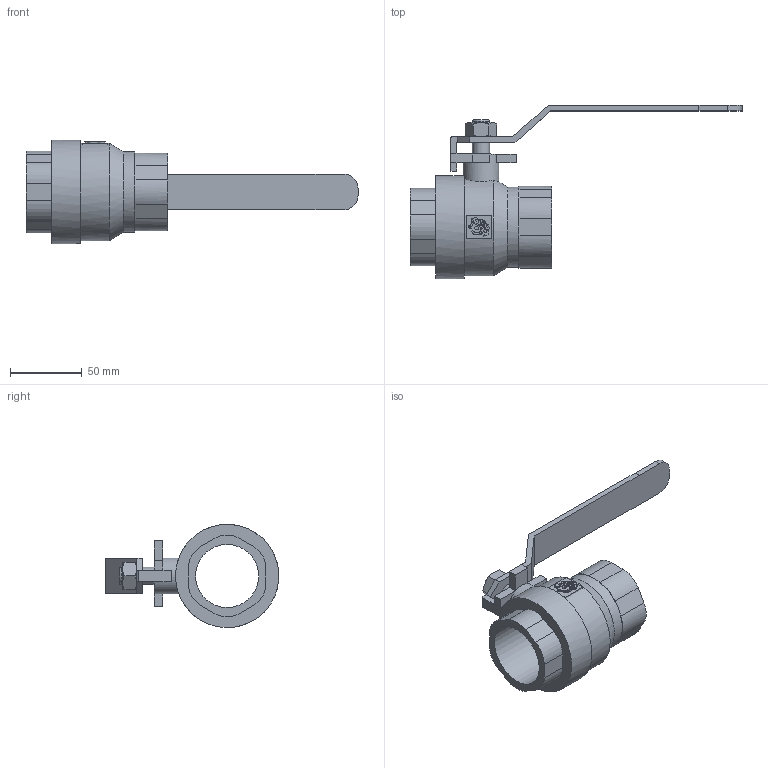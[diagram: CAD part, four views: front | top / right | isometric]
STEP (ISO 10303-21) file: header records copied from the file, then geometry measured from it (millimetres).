
FILE_DESCRIPTION(('STEP AP203'), '1');
FILE_NAME('7014-040-63', '', ('UNSPECIFIED'), ('UNSPECIFIED'), 'C3D Converter', 'C3D Toolkit', '');
FILE_SCHEMA(('CONFIG_CONTROL_DESIGN'));
Length unit declared in the file: millimetre
Bounding box: 231.5 x 120.98 x 71.95 mm (x, y, z)
Volume: 191679.4 mm3; surface area: 54835.3 mm2
Topology: 10 solids, 10 shells, 935 faces, 2723 edges, 1811 vertices
Faces by surface type: plane 907, cylinder 24, cone 3, torus 1
Full cylindrical faces by diameter (mm): 12 x2, 25 x1, 44 x1, 56 x1, 72 x1
Entity records: 38736 total; most frequent: CARTESIAN_POINT 6379, ORIENTED_EDGE 5426, DIRECTION 4655, EDGE_CURVE 2713, LINE 2605, VECTOR 2605, VERTEX_POINT 1813, AXIS2_PLACEMENT_3D 1025
